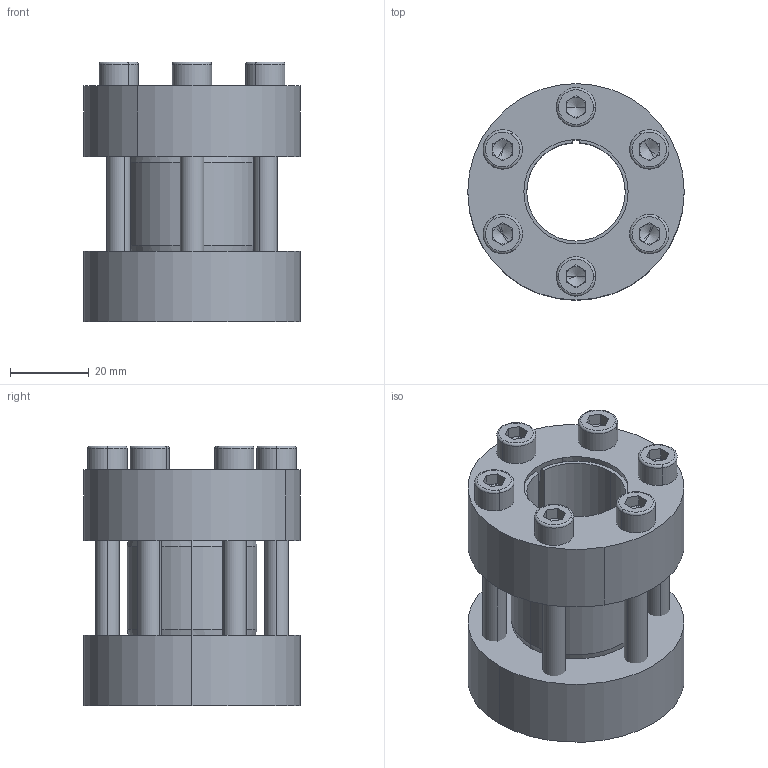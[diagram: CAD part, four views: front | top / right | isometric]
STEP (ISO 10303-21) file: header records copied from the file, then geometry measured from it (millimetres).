
FILE_DESCRIPTION (( 'STEP AP214' ), '1' );
FILE_NAME ('CONEX-M-25x55.step', '2013-04-06T13:25:14', ( 'Pc' ), ( '' ), 'SwSTEP 2.0', 'SolidWorks 2013', '' );
FILE_SCHEMA (( 'AUTOMOTIVE_DESIGN' ));
Length unit declared in the file: millimetre
Products named in the file (1): CONEX-M-25x55
Bounding box: 55 x 55 x 66.01 mm (x, y, z)
Volume: 81413.2 mm3; surface area: 38616.7 mm2
Topology: 9 solids, 9 shells, 214 faces, 482 edges, 286 vertices
Faces by surface type: plane 98, cylinder 58, cone 34, torus 24
Entity records: 8399 total; most frequent: DIRECTION 1122, CARTESIAN_POINT 998, ORIENTED_EDGE 940, EDGE_CURVE 470, AXIS2_PLACEMENT_3D 441, VERTEX_POINT 286, EDGE_LOOP 254, LINE 240
